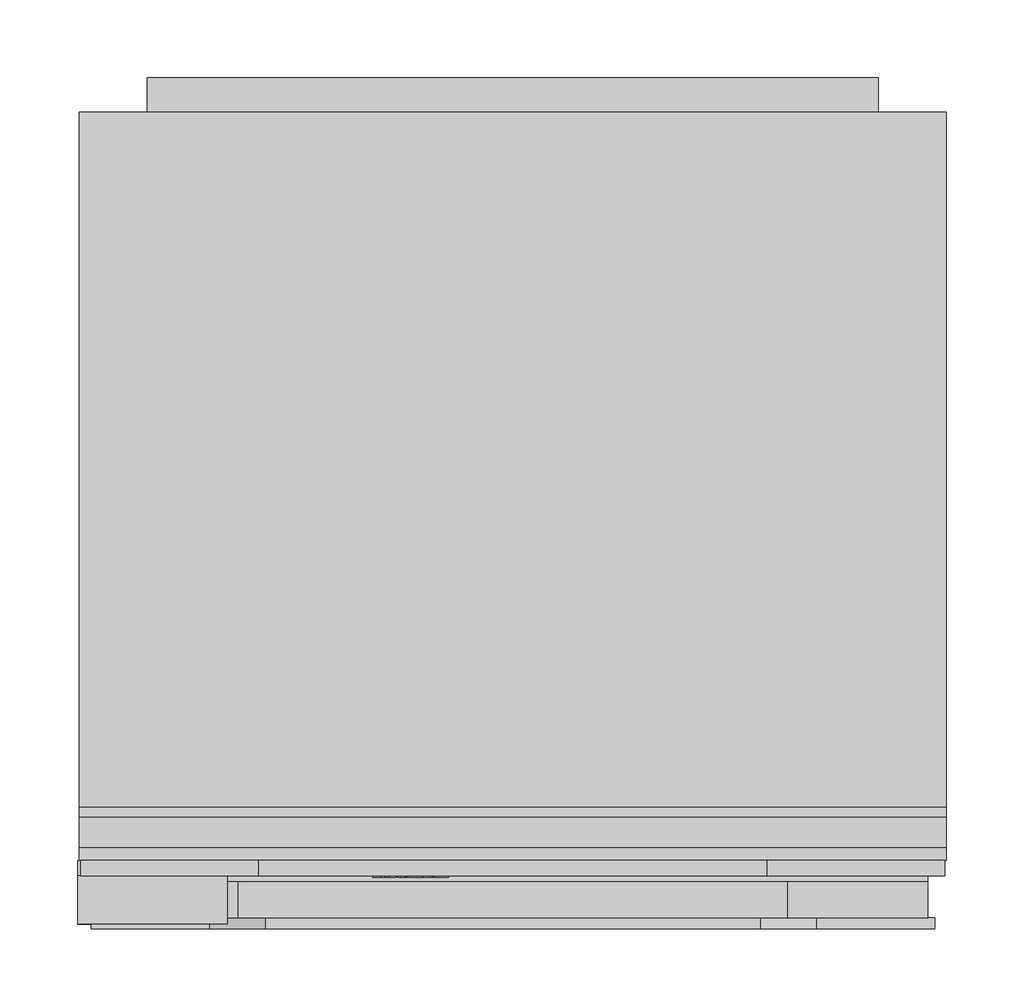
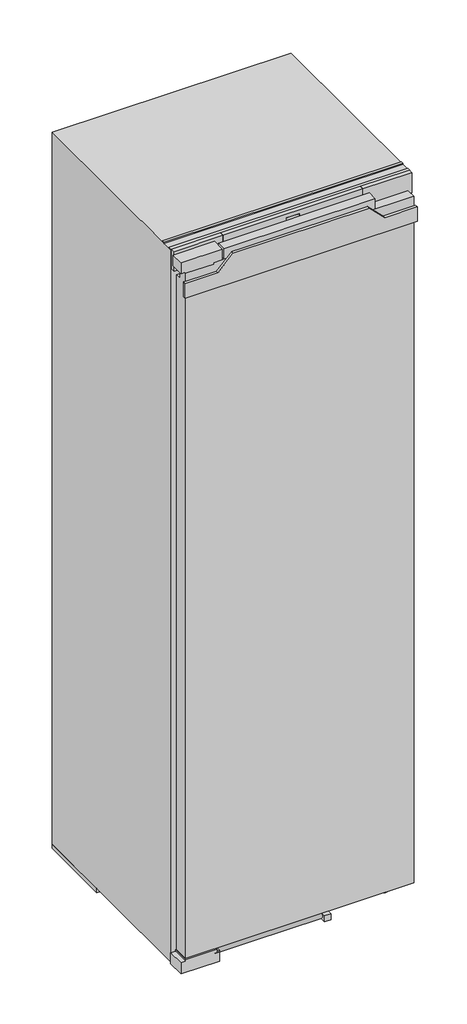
# Not in any storey: 1 proxy.
"""IFC4 building model written with IfcOpenShell, lengths in millimetres."""

from ifc_helpers import new_model, si_unit, origin, place, context, project, spatial, transform, mapped, element, save
from components import specialty_equipment_6c33d652

model = new_model("IFC4")

# Units and contexts
model_context = context("Model", 3, world=origin())
ifc_project = project(units=[si_unit("LENGTHUNIT", "METRE", prefix="MILLI")], contexts=[model_context])

# Site, building
site = spatial("IfcSite", under=ifc_project)
building = spatial("IfcBuilding", under=site)

# Proxy
placement = place(None, origin())
specialty_equipment_shape = specialty_equipment_6c33d652(model_context)
element("IfcBuildingElementProxy", 1, Name="13000760_CH_K7748C_LI : 36774808_CH_13000760_K7748C_LI", ObjectType="13000760_CH_K7748C_LI : 36774808_CH_13000760_K7748C_LI", at=placement, inside=building, context=model_context, shape_type="MappedRepresentation", body=[
    mapped(specialty_equipment_shape, transform((0.0, 0.0, 0.0), x_axis=(1.0, 0.0, 0.0), y_axis=(0.0, 1.0, 0.0), z_axis=(0.0, 0.0, 1.0))),
])

save(model, "model.ifc")
